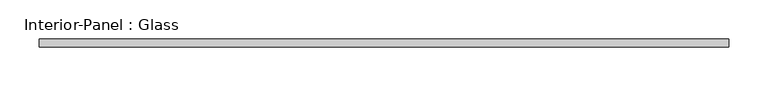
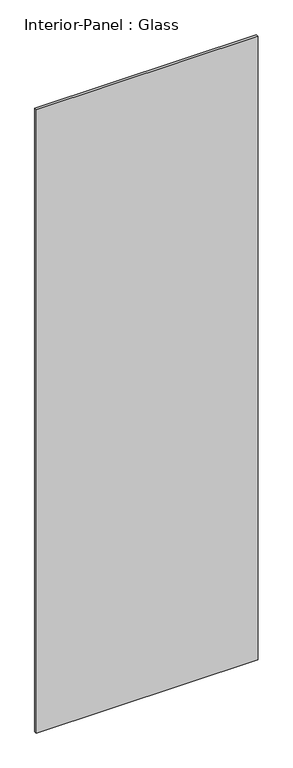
"""IFC4 building model written with IfcOpenShell, lengths in millimetres: plate geometry, Interior-Panel : Glass."""

from ifc_helpers import new_model, si_unit, origin, origin_with_axes, place, context, project, spatial, polyline, outline, extrude, source, transform, mapped, element, save


def interior_panel_glass_ff3a4b2f(model_context):
    return source(origin(), model_context, "Body", "SweptSolid", [
        extrude(outline(polyline([(437.5, 50.0), (437.5, 40.0), (-437.5, 40.0), (-437.5, 50.0), (437.5, 50.0)])), origin_with_axes(), (0.0, 0.0, 1.0), 2600.0),
    ])


if __name__ == "__main__":
    model = new_model("IFC4")
    model_context = context("Model", 3, world=origin())
    ifc_project = project(units=[si_unit("LENGTHUNIT", "METRE", prefix="MILLI")], contexts=[model_context])
    site = spatial("IfcSite", under=ifc_project)
    building = spatial("IfcBuilding", under=site)
    placement = place(None, origin())
    interior_panel_glass_shape = interior_panel_glass_ff3a4b2f(model_context)
    element("IfcPlate", 1, ObjectType="Interior-Panel : Glass", at=placement, inside=building, context=model_context, shape_type="MappedRepresentation", body=[
        mapped(interior_panel_glass_shape, transform((0.0, 0.0, 0.0), x_axis=(1.0, 0.0, 0.0), y_axis=(0.0, 1.0, 0.0), z_axis=(0.0, 0.0, 1.0))),
    ])
    save(model, "model.ifc")
